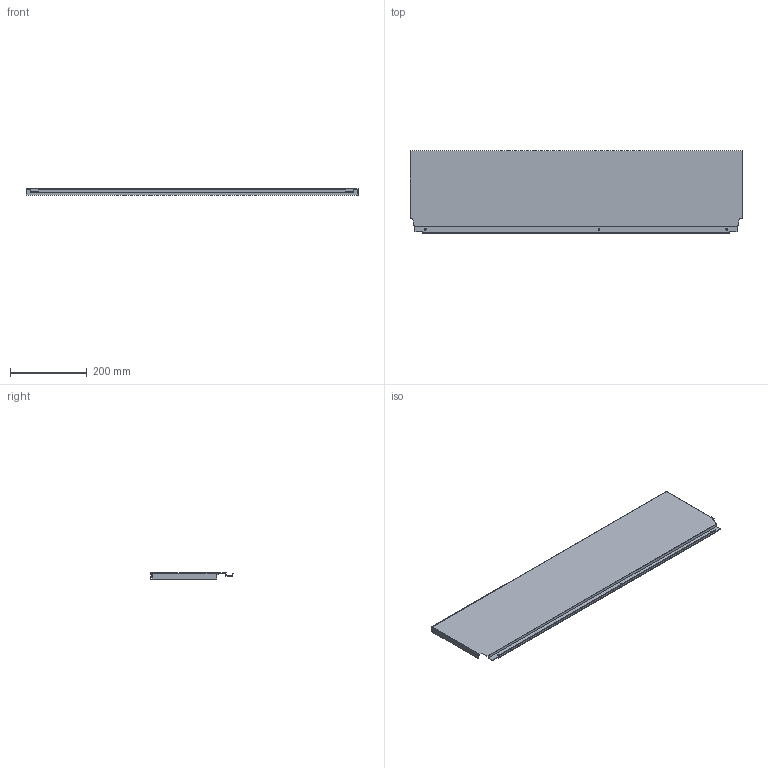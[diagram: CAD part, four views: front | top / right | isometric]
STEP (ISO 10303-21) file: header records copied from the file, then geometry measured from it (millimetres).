
FILE_DESCRIPTION (( 'STEP AP214' ), '1' );
FILE_NAME ('_DWD_XP Stahlrückwand_H214_KAB950_S16.step', '2010-07-08T13:02:52', ( 'grass' ), ( '' ), 'SwSTEP 2.0', 'SolidWorks 2010', '' );
FILE_SCHEMA (( 'AUTOMOTIVE_DESIGN' ));
Length unit declared in the file: millimetre
Products named in the file (1): _DWD_XP Stahlrückwand_H214_KAB950_S16
Bounding box: 867 x 214.58 x 16 mm (x, y, z)
Volume: 205610.9 mm3; surface area: 433236.4 mm2
Topology: 1 solids, 1 shells, 46 faces, 132 edges, 88 vertices
Faces by surface type: plane 40, cylinder 6
Entity records: 1534 total; most frequent: CARTESIAN_POINT 267, ORIENTED_EDGE 264, DIRECTION 238, EDGE_CURVE 132, VECTOR 120, LINE 120, VERTEX_POINT 88, AXIS2_PLACEMENT_3D 59
